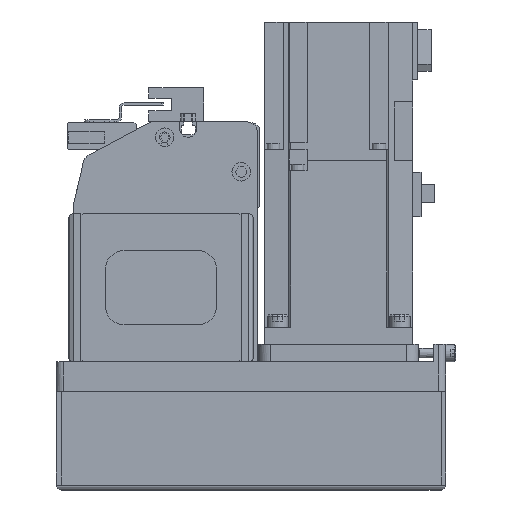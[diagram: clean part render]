
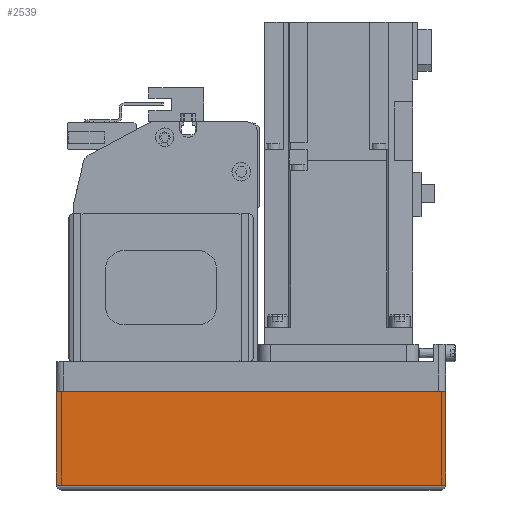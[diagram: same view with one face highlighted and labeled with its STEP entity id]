
A CAD part, left-side view. The second image highlights one B-rep face of the part: STEP entity #2539.
In plain terms, the highlighted planar face has unit normal (-1, 0, 0) as drawn and (0, 1, 0) by its records, which use the part's own axes.
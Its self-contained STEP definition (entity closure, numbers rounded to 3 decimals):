
#2539 = ADVANCED_FACE( '', ( #5678 ), #5679, .T. );
#5678 = FACE_OUTER_BOUND( '', #9357, .T. );
#5679 = PLANE( '', #9358 );
#9357 = EDGE_LOOP( '', ( #16475, #16476, #16477, #16478 ) );
#9358 = AXIS2_PLACEMENT_3D( '', #16479, #16480, #16481 );
#16475 = ORIENTED_EDGE( '', *, *, #21696, .F. );
#16476 = ORIENTED_EDGE( '', *, *, #22901, .F. );
#16477 = ORIENTED_EDGE( '', *, *, #23241, .T. );
#16478 = ORIENTED_EDGE( '', *, *, #21039, .T. );
#16479 = CARTESIAN_POINT( '', ( -158., 39., -50. ) );
#16480 = DIRECTION( '', ( 0., 1., 0. ) );
#16481 = DIRECTION( '', ( 0., 0., 1. ) );
#21039 = EDGE_CURVE( '', #25198, #25196, #25199, .T. );
#21696 = EDGE_CURVE( '', #26296, #25196, #26297, .T. );
#22901 = EDGE_CURVE( '', #25622, #26296, #28117, .T. );
#23241 = EDGE_CURVE( '', #25622, #25198, #28599, .T. );
#25196 = VERTEX_POINT( '', #31326 );
#25198 = VERTEX_POINT( '', #31329 );
#25199 = LINE( '', #31330, #31331 );
#25622 = VERTEX_POINT( '', #31925 );
#26296 = VERTEX_POINT( '', #33095 );
#26297 = LINE( '', #33096, #33097 );
#28117 = LINE( '', #36267, #36268 );
#28599 = LINE( '', #36927, #36928 );
#31326 = CARTESIAN_POINT( '', ( 0., 39., -12.1 ) );
#31329 = CARTESIAN_POINT( '', ( -158., 39., -12.1 ) );
#31330 = CARTESIAN_POINT( '', ( -158., 39., -12.1 ) );
#31331 = VECTOR( '', #39099, 1000. );
#31925 = CARTESIAN_POINT( '', ( -158., 39., -50. ) );
#33095 = CARTESIAN_POINT( '', ( 0., 39., -50. ) );
#33096 = CARTESIAN_POINT( '', ( 0., 39., -50. ) );
#33097 = VECTOR( '', #39912, 1000. );
#36267 = CARTESIAN_POINT( '', ( -158., 39., -50. ) );
#36268 = VECTOR( '', #41339, 1000. );
#36927 = CARTESIAN_POINT( '', ( -158., 39., -50. ) );
#36928 = VECTOR( '', #41805, 1000. );
#39099 = DIRECTION( '', ( 1., 0., 0. ) );
#39912 = DIRECTION( '', ( 0., 0., 1. ) );
#41339 = DIRECTION( '', ( 1., 0., 0. ) );
#41805 = DIRECTION( '', ( 0., 0., 1. ) );
